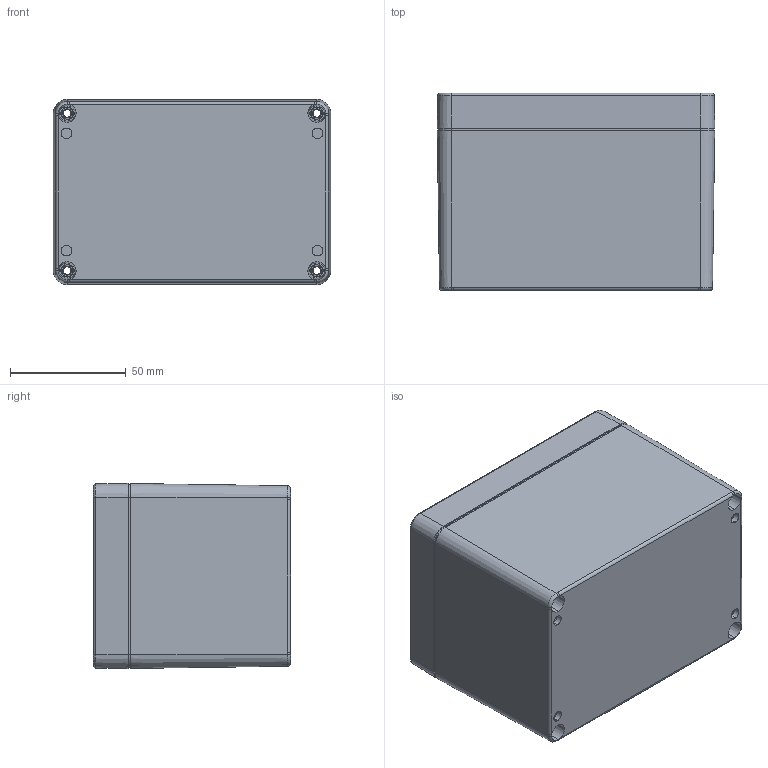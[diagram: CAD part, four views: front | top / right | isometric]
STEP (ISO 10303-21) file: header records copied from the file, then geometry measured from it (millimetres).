
FILE_DESCRIPTION (( 'STEP AP203' ), '1' );
FILE_NAME ('SE-216-0-0.STEP', '2019-11-20T11:45:19', ( '' ), ( '' ), 'SwSTEP 2.0', 'SolidWorks 2020', '' );
FILE_SCHEMA (( 'CONFIG_CONTROL_DESIGN' ));
Length unit declared in the file: millimetre
Products named in the file (4): SE-216-0-0; SE-216-P-2; SE-216-P-1; SE-216_pcb_sample
Assembly tree (3 placements, depth 2):
  SE-216-0-0
    SE-216-P-2
    SE-216-P-1
    SE-216_pcb_sample
Bounding box: 120 x 85.2 x 80.15 mm (x, y, z)
Volume: 183889.7 mm3; surface area: 137423.8 mm2
Topology: 11 solids, 11 shells, 1337 faces, 3528 edges, 2272 vertices
Faces by surface type: bspline 492, cylinder 356, plane 281, cone 200, torus 8
Entity records: 48052 total; most frequent: CARTESIAN_POINT 17507, ORIENTED_EDGE 7024, DIRECTION 5282, EDGE_CURVE 3512, VERTEX_POINT 2272, AXIS2_PLACEMENT_3D 1931, EDGE_LOOP 1472, LINE 1420
